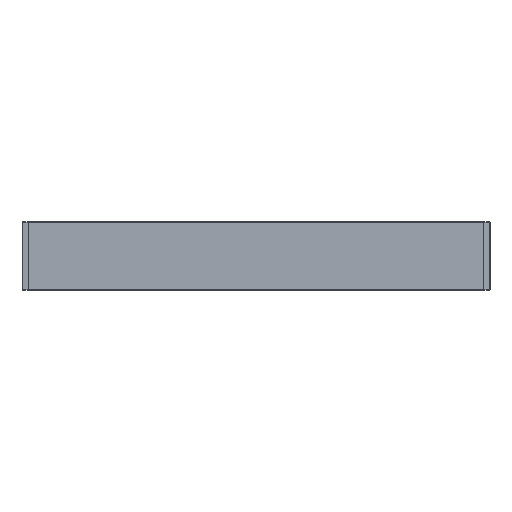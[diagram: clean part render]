
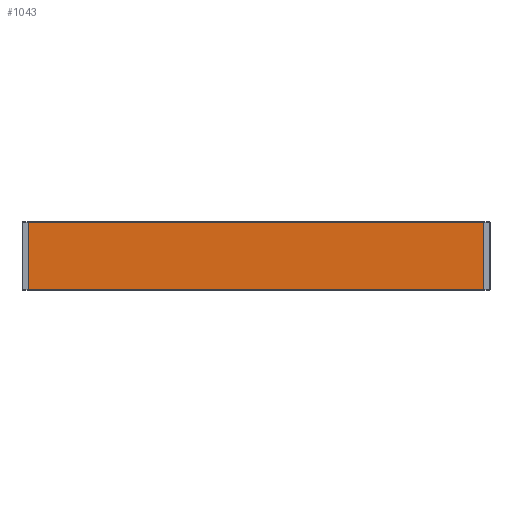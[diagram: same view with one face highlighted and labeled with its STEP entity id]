
A CAD part, left-side view. The second image highlights one B-rep face of the part: STEP entity #1043.
In plain terms, the highlighted free-form (B-spline) face has degree [2, 1] with [3, 2] control points.
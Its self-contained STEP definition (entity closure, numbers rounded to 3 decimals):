
#1043=ADVANCED_FACE('',(#3049),#73540,.T.);
#3049=FACE_OUTER_BOUND('',#5087,.T.);
#5087=EDGE_LOOP('',(#11118,#11119,#11120,#11121));
#11118=ORIENTED_EDGE('',*,*,#63128,.T.);
#11119=ORIENTED_EDGE('',*,*,#63129,.T.);
#11120=ORIENTED_EDGE('',*,*,#63130,.T.);
#11121=ORIENTED_EDGE('',*,*,#63126,.F.);
#22399=PCURVE('',#73539,#33683);
#22402=PCURVE('',#73540,#33686);
#22403=PCURVE('',#73540,#33687);
#22404=PCURVE('',#73540,#33688);
#22405=PCURVE('',#73540,#33689);
#22409=PCURVE('',#73541,#33693);
#22836=PCURVE('',#72471,#34120);
#23052=PCURVE('',#72473,#34336);
#33683=DEFINITIONAL_REPRESENTATION('',(#46711),#165361);
#33686=DEFINITIONAL_REPRESENTATION('',(#46714),#165361);
#33687=DEFINITIONAL_REPRESENTATION('',(#46715),#165361);
#33688=DEFINITIONAL_REPRESENTATION('',(#46716),#165361);
#33689=DEFINITIONAL_REPRESENTATION('',(#46717),#165361);
#33693=DEFINITIONAL_REPRESENTATION('',(#46721),#165361);
#34120=DEFINITIONAL_REPRESENTATION('',(#67339),#165361);
#34336=DEFINITIONAL_REPRESENTATION('',(#67527),#165361);
#46711=B_SPLINE_CURVE_WITH_KNOTS('',1,(#116508,#116509),.UNSPECIFIED.,.F.,
 .F.,(2,2),(0.,500.),.UNSPECIFIED.);
#46714=B_SPLINE_CURVE_WITH_KNOTS('',1,(#116520,#116521),.UNSPECIFIED.,.F.,
 .F.,(2,2),(-509.152,-435.152),.UNSPECIFIED.);
#46715=B_SPLINE_CURVE_WITH_KNOTS('',1,(#116524,#116525),.UNSPECIFIED.,.F.,
 .F.,(2,2),(0.,500.),.UNSPECIFIED.);
#46716=B_SPLINE_CURVE_WITH_KNOTS('',1,(#116529,#116530),.UNSPECIFIED.,.F.,
 .F.,(2,2),(435.152,509.152),.UNSPECIFIED.);
#46717=B_SPLINE_CURVE_WITH_KNOTS('',1,(#116531,#116532),.UNSPECIFIED.,.F.,
 .F.,(2,2),(0.,500.),.UNSPECIFIED.);
#46721=B_SPLINE_CURVE_WITH_KNOTS('',1,(#116547,#116548),.UNSPECIFIED.,.F.,
 .F.,(2,2),(0.,500.),.UNSPECIFIED.);
#57484=SURFACE_CURVE('',#67024,(#22399,#22405),.PCURVE_S1.);
#57486=SURFACE_CURVE('',#67026,(#22402,#22836),.PCURVE_S1.);
#57487=SURFACE_CURVE('',#67027,(#22403,#22409),.PCURVE_S1.);
#57488=SURFACE_CURVE('',#67028,(#22404,#23052),.PCURVE_S1.);
#63126=EDGE_CURVE('',#69920,#69921,#57484,.T.);
#63128=EDGE_CURVE('',#69920,#69922,#57486,.T.);
#63129=EDGE_CURVE('',#69922,#69923,#57487,.T.);
#63130=EDGE_CURVE('',#69923,#69921,#57488,.T.);
#67024=(
BOUNDED_CURVE()
B_SPLINE_CURVE(1,(#116506,#116507),.UNSPECIFIED.,.F.,.F.)
B_SPLINE_CURVE_WITH_KNOTS((2,2),(0.,500.),.UNSPECIFIED.)
CURVE()
GEOMETRIC_REPRESENTATION_ITEM()
RATIONAL_B_SPLINE_CURVE((1.,1.))
REPRESENTATION_ITEM('')
);
#67026=(
BOUNDED_CURVE()
B_SPLINE_CURVE(2,(#116517,#116518,#116519),.UNSPECIFIED.,.F.,.F.)
B_SPLINE_CURVE_WITH_KNOTS((3,3),(-509.152,-435.152),
 .UNSPECIFIED.)
CURVE()
GEOMETRIC_REPRESENTATION_ITEM()
RATIONAL_B_SPLINE_CURVE((1.,1.,1.))
REPRESENTATION_ITEM('')
);
#67027=(
BOUNDED_CURVE()
B_SPLINE_CURVE(1,(#116522,#116523),.UNSPECIFIED.,.F.,.F.)
B_SPLINE_CURVE_WITH_KNOTS((2,2),(0.,500.),.UNSPECIFIED.)
CURVE()
GEOMETRIC_REPRESENTATION_ITEM()
RATIONAL_B_SPLINE_CURVE((1.,1.))
REPRESENTATION_ITEM('')
);
#67028=(
BOUNDED_CURVE()
B_SPLINE_CURVE(2,(#116526,#116527,#116528),.UNSPECIFIED.,.F.,.F.)
B_SPLINE_CURVE_WITH_KNOTS((3,3),(435.152,509.152),
 .UNSPECIFIED.)
CURVE()
GEOMETRIC_REPRESENTATION_ITEM()
RATIONAL_B_SPLINE_CURVE((1.,1.,1.))
REPRESENTATION_ITEM('')
);
#67339=(
BOUNDED_CURVE()
B_SPLINE_CURVE(2,(#118373,#118374,#118375),.UNSPECIFIED.,.F.,.F.)
B_SPLINE_CURVE_WITH_KNOTS((3,3),(-509.152,-435.152),
 .UNSPECIFIED.)
CURVE()
GEOMETRIC_REPRESENTATION_ITEM()
RATIONAL_B_SPLINE_CURVE((1.,1.,1.))
REPRESENTATION_ITEM('')
);
#67527=(
BOUNDED_CURVE()
B_SPLINE_CURVE(2,(#119099,#119100,#119101),.UNSPECIFIED.,.F.,.F.)
B_SPLINE_CURVE_WITH_KNOTS((3,3),(435.152,509.152),
 .UNSPECIFIED.)
CURVE()
GEOMETRIC_REPRESENTATION_ITEM()
RATIONAL_B_SPLINE_CURVE((1.,1.,1.))
REPRESENTATION_ITEM('')
);
#69920=VERTEX_POINT('',#114097);
#69921=VERTEX_POINT('',#114098);
#69922=VERTEX_POINT('',#114099);
#69923=VERTEX_POINT('',#114100);
#72471=B_SPLINE_SURFACE_WITH_KNOTS('',1,1,((#113867,#113868),(#113869,#113870)),
 .UNSPECIFIED.,.F.,.F.,.F.,(2,2),(2,2),(-71.377,22.373),
(-50.075,18.675),.UNSPECIFIED.);
#72473=B_SPLINE_SURFACE_WITH_KNOTS('',1,1,((#113875,#113876),(#113877,#113878)),
 .UNSPECIFIED.,.F.,.F.,.F.,(2,2),(2,2),(-50.075,18.675),
(-71.377,22.373),.UNSPECIFIED.);
#73539=(
BOUNDED_SURFACE()
B_SPLINE_SURFACE(2,1,((#113097,#113098),(#113099,#113100),(#113101,#113102)),
 .UNSPECIFIED.,.F.,.F.,.F.)
B_SPLINE_SURFACE_WITH_KNOTS((3,3),(2,2),(-509.937,-509.152),
(0.,500.),.UNSPECIFIED.)
GEOMETRIC_REPRESENTATION_ITEM()
RATIONAL_B_SPLINE_SURFACE(((1.,1.),(0.707,0.707),
(1.,1.)))
REPRESENTATION_ITEM('')
SURFACE()
);
#73540=(
BOUNDED_SURFACE()
B_SPLINE_SURFACE(2,1,((#113103,#113104),(#113105,#113106),(#113107,#113108)),
 .UNSPECIFIED.,.F.,.F.,.F.)
B_SPLINE_SURFACE_WITH_KNOTS((3,3),(2,2),(-509.152,-435.152),
(0.,500.),.UNSPECIFIED.)
GEOMETRIC_REPRESENTATION_ITEM()
RATIONAL_B_SPLINE_SURFACE(((1.,1.),(1.,1.),(1.,1.)))
REPRESENTATION_ITEM('')
SURFACE()
);
#73541=(
BOUNDED_SURFACE()
B_SPLINE_SURFACE(2,1,((#113109,#113110),(#113111,#113112),(#113113,#113114)),
 .UNSPECIFIED.,.F.,.F.,.F.)
B_SPLINE_SURFACE_WITH_KNOTS((3,3),(2,2),(-435.152,-434.366),
(0.,500.),.UNSPECIFIED.)
GEOMETRIC_REPRESENTATION_ITEM()
RATIONAL_B_SPLINE_SURFACE(((1.,1.),(0.707,0.707),
(1.,1.)))
REPRESENTATION_ITEM('')
SURFACE()
);
#113097=CARTESIAN_POINT('',(-27.,-250.,0.));
#113098=CARTESIAN_POINT('',(-27.,250.,0.));
#113099=CARTESIAN_POINT('',(-27.5,-250.,0.));
#113100=CARTESIAN_POINT('',(-27.5,250.,0.));
#113101=CARTESIAN_POINT('',(-27.5,-250.,0.5));
#113102=CARTESIAN_POINT('',(-27.5,250.,0.5));
#113103=CARTESIAN_POINT('',(-27.5,-250.,0.5));
#113104=CARTESIAN_POINT('',(-27.5,250.,0.5));
#113105=CARTESIAN_POINT('',(-27.5,-250.,37.5));
#113106=CARTESIAN_POINT('',(-27.5,250.,37.5));
#113107=CARTESIAN_POINT('',(-27.5,-250.,74.5));
#113108=CARTESIAN_POINT('',(-27.5,250.,74.5));
#113109=CARTESIAN_POINT('',(-27.5,-250.,74.5));
#113110=CARTESIAN_POINT('',(-27.5,250.,74.5));
#113111=CARTESIAN_POINT('',(-27.5,-250.,75.));
#113112=CARTESIAN_POINT('',(-27.5,250.,75.));
#113113=CARTESIAN_POINT('',(-27.,-250.,75.));
#113114=CARTESIAN_POINT('',(-27.,250.,75.));
#113867=CARTESIAN_POINT('',(34.375,-250.,-9.375));
#113868=CARTESIAN_POINT('',(-34.375,-250.,-9.375));
#113869=CARTESIAN_POINT('',(34.375,-250.,84.375));
#113870=CARTESIAN_POINT('',(-34.375,-250.,84.375));
#113875=CARTESIAN_POINT('',(34.375,250.,-9.375));
#113876=CARTESIAN_POINT('',(34.375,250.,84.375));
#113877=CARTESIAN_POINT('',(-34.375,250.,-9.375));
#113878=CARTESIAN_POINT('',(-34.375,250.,84.375));
#114097=CARTESIAN_POINT('',(-27.5,-250.,0.5));
#114098=CARTESIAN_POINT('',(-27.5,250.,0.5));
#114099=CARTESIAN_POINT('',(-27.5,-250.,74.5));
#114100=CARTESIAN_POINT('',(-27.5,250.,74.5));
#116506=CARTESIAN_POINT('',(-27.5,-250.,0.5));
#116507=CARTESIAN_POINT('',(-27.5,250.,0.5));
#116508=CARTESIAN_POINT('',(-509.152,0.));
#116509=CARTESIAN_POINT('',(-509.152,500.));
#116517=CARTESIAN_POINT('',(-27.5,-250.,0.5));
#116518=CARTESIAN_POINT('',(-27.5,-250.,37.5));
#116519=CARTESIAN_POINT('',(-27.5,-250.,74.5));
#116520=CARTESIAN_POINT('',(-509.152,0.));
#116521=CARTESIAN_POINT('',(-435.152,0.));
#116522=CARTESIAN_POINT('',(-27.5,-250.,74.5));
#116523=CARTESIAN_POINT('',(-27.5,250.,74.5));
#116524=CARTESIAN_POINT('',(-435.152,0.));
#116525=CARTESIAN_POINT('',(-435.152,500.));
#116526=CARTESIAN_POINT('',(-27.5,250.,74.5));
#116527=CARTESIAN_POINT('',(-27.5,250.,37.5));
#116528=CARTESIAN_POINT('',(-27.5,250.,0.5));
#116529=CARTESIAN_POINT('',(-435.152,500.));
#116530=CARTESIAN_POINT('',(-509.152,500.));
#116531=CARTESIAN_POINT('',(-509.152,0.));
#116532=CARTESIAN_POINT('',(-509.152,500.));
#116547=CARTESIAN_POINT('',(-435.152,0.));
#116548=CARTESIAN_POINT('',(-435.152,500.));
#118373=CARTESIAN_POINT('',(-61.502,11.8));
#118374=CARTESIAN_POINT('',(-24.502,11.8));
#118375=CARTESIAN_POINT('',(12.498,11.8));
#119099=CARTESIAN_POINT('',(11.8,12.498));
#119100=CARTESIAN_POINT('',(11.8,-24.502));
#119101=CARTESIAN_POINT('',(11.8,-61.502));
#165361=(
GEOMETRIC_REPRESENTATION_CONTEXT(2)
PARAMETRIC_REPRESENTATION_CONTEXT()
REPRESENTATION_CONTEXT('pspace','')
);
